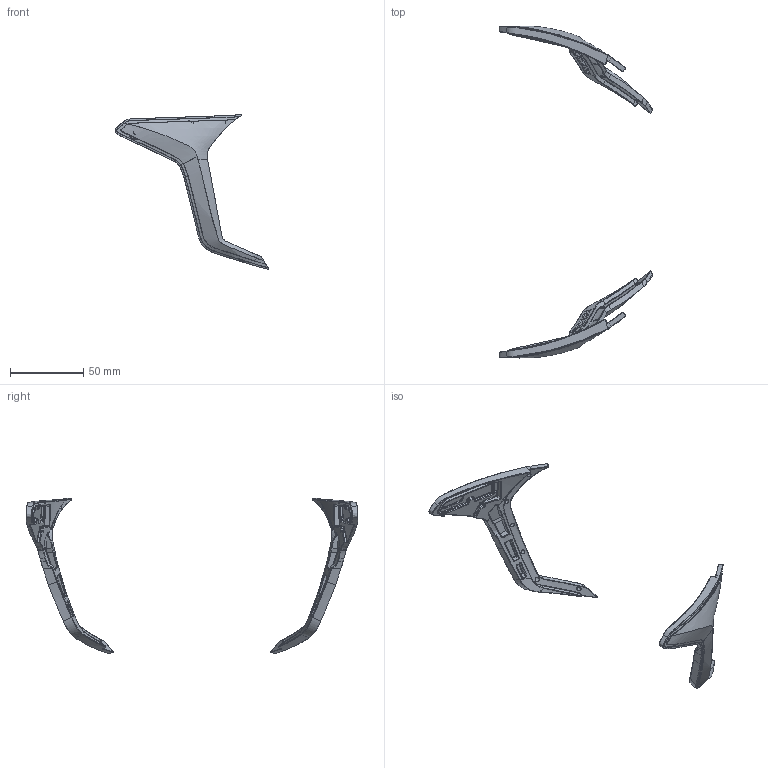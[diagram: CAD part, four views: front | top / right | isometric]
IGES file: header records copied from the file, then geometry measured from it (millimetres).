
Start section: SolidWorks IGES file using analytic representation for surfaces
Global section: file name: F:\onedrive\Aurak\Faclon\metal part\0520\SG19056.IGS; native system: SolidWorks 2020; preprocessor: SolidWorks 2020; author: ELWIN_SUNEVER; date: 200617.133932; units: millimetre
Bounding box: 104.76 x 226.16 x 105.66 mm (x, y, z)
Surface area: 19565.2 mm2 (no closed solid volume)
Topology: 0 solids, 0 shells, 874 faces, 9931 edges, 9897 vertices
Faces by surface type: bspline 874
